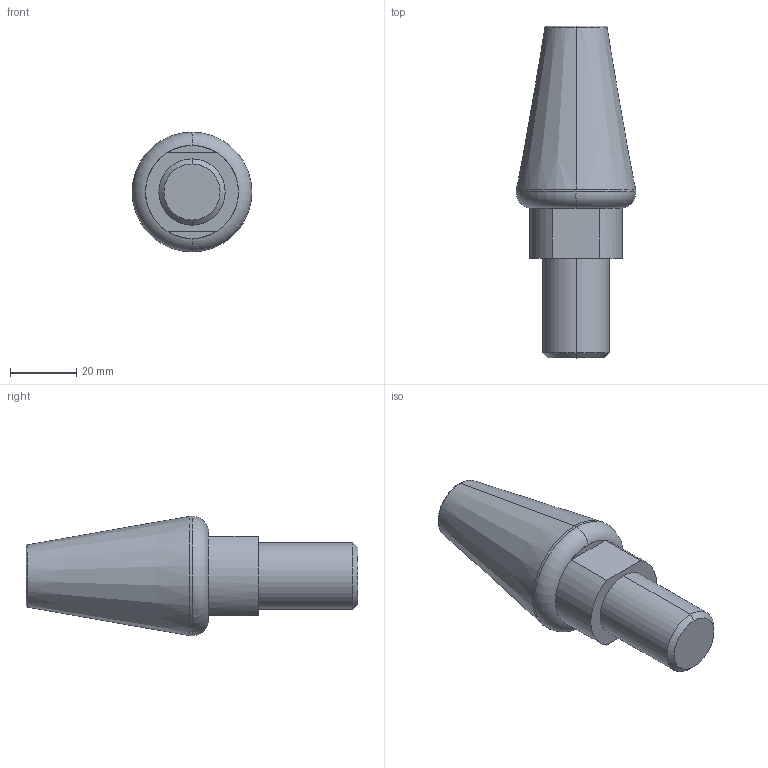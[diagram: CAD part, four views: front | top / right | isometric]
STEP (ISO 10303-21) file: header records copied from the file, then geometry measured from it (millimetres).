
FILE_DESCRIPTION(('CATIA V5 STEP Exchange'),'2;1');
FILE_NAME('C:\Users\Raffaele\Desktop\3D X SITO CF\384F\GSB_OILLESS_M31102020100\STEP-2.03\384F-3.stp','2019-07-05T08:43:51+00:00',('none'),('none'),'CATIA Version 5 Release 20 GA (IN-10)','CATIA V5 STEP AP203','none');
FILE_SCHEMA(('CONFIG_CONTROL_DESIGN'));
Length unit declared in the file: millimetre
Products named in the file (1): 384F-3
Bounding box: 36.08 x 100 x 36.08 mm (x, y, z)
Volume: 52429.3 mm3; surface area: 9353.4 mm2
Topology: 1 solids, 1 shells, 35 faces, 94 edges, 61 vertices
Faces by surface type: plane 19, cone 6, torus 6, cylinder 4
Entity records: 1106 total; most frequent: CARTESIAN_POINT 199, ORIENTED_EDGE 184, DIRECTION 160, EDGE_CURVE 92, AXIS2_PLACEMENT_3D 84, VERTEX_POINT 61, CIRCLE 48, VECTOR 42
